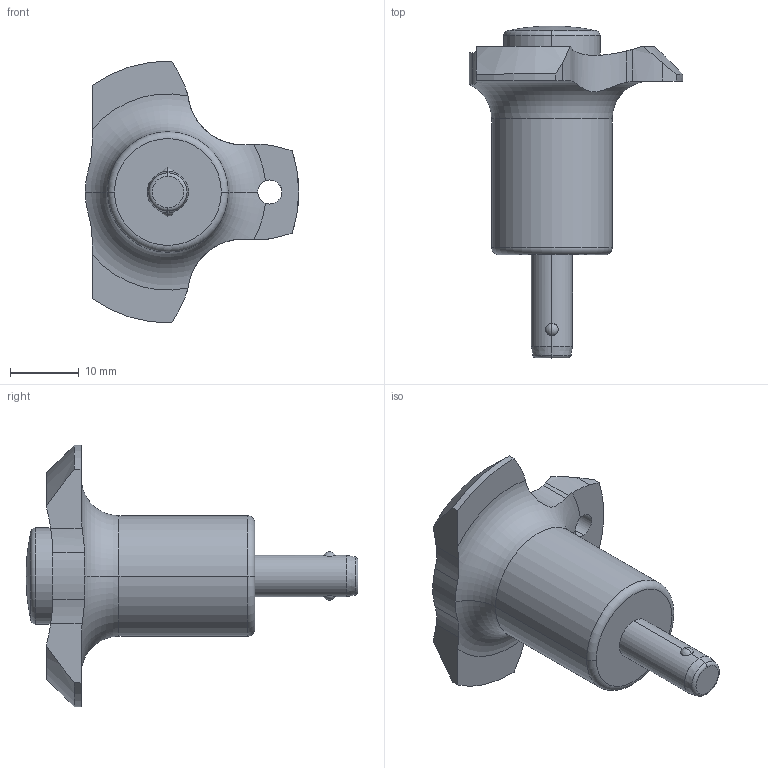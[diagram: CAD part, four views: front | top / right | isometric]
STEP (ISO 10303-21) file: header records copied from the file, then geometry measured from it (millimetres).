
FILE_DESCRIPTION (( 'STEP AP203' ), '1' );
FILE_NAME ('33180.W0012.step', '2025-01-06T11:14:35', ( '' ), ( '' ), 'SwSTEP 2.0', 'SolidWorks 2019', '' );
FILE_SCHEMA (( 'CONFIG_CONTROL_DESIGN' ));
Length unit declared in the file: millimetre
Products named in the file (4): Part3_33180.W0012; Part2_33180.W0012; Part1_33180.W0012; 33180.W0012
Assembly tree (3 placements, depth 2):
  33180.W0012
    Part1_33180.W0012
    Part2_33180.W0012
    Part3_33180.W0012
Bounding box: 31 x 48.2 x 37.98 mm (x, y, z)
Volume: 8246.9 mm3; surface area: 5966.4 mm2
Topology: 3 solids, 3 shells, 68 faces, 177 edges, 113 vertices
Faces by surface type: cylinder 26, plane 20, torus 8, sphere 8, cone 6
Entity records: 2767 total; most frequent: CARTESIAN_POINT 683, DIRECTION 371, ORIENTED_EDGE 354, EDGE_CURVE 177, AXIS2_PLACEMENT_3D 161, VERTEX_POINT 113, CIRCLE 87, EDGE_LOOP 70
